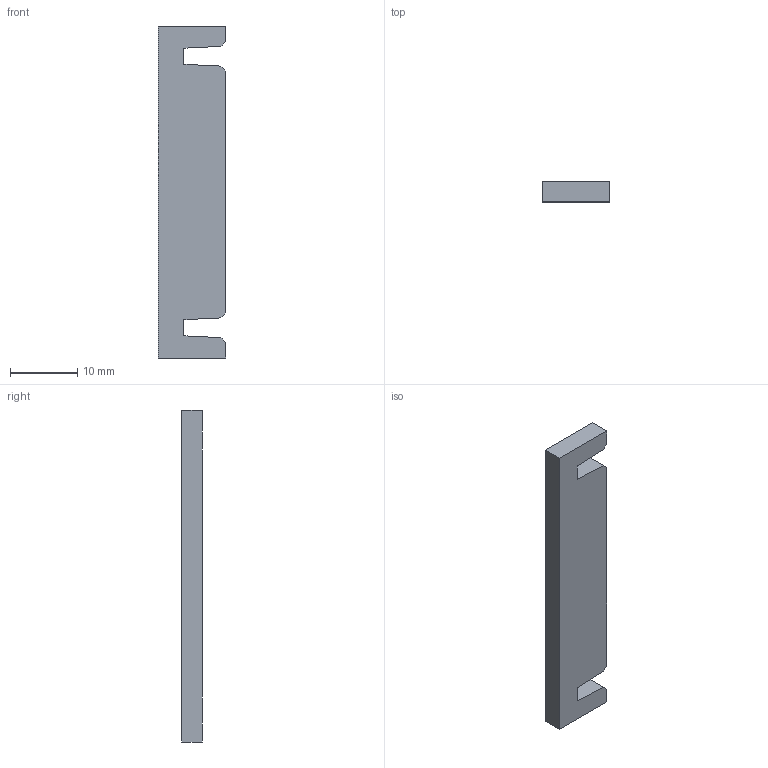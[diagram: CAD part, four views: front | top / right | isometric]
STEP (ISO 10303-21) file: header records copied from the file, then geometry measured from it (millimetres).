
FILE_DESCRIPTION(('FreeCAD Model'),'2;1');
FILE_NAME('Open CASCADE Shape Model','2024-06-26T11:40:22',('FreeCAD'),( 'FreeCAD'),'Open CASCADE STEP processor 7.6','FreeCAD','Unknown');
FILE_SCHEMA(('AUTOMOTIVE_DESIGN { 1 0 10303 214 1 1 1 1 }'));
Length unit declared in the file: millimetre
Products named in the file (1): Open CASCADE STEP translator 7.6 1
Bounding box: 10 x 3 x 49.4 mm (x, y, z)
Volume: 1378.6 mm3; surface area: 1341.7 mm2
Topology: 1 solids, 1 shells, 18 faces, 48 edges, 32 vertices
Faces by surface type: plane 18
Entity records: 562 total; most frequent: CARTESIAN_POINT 99, ORIENTED_EDGE 96, DIRECTION 86, EDGE_CURVE 48, LINE 48, VECTOR 48, VERTEX_POINT 32, AXIS2_PLACEMENT_3D 19
